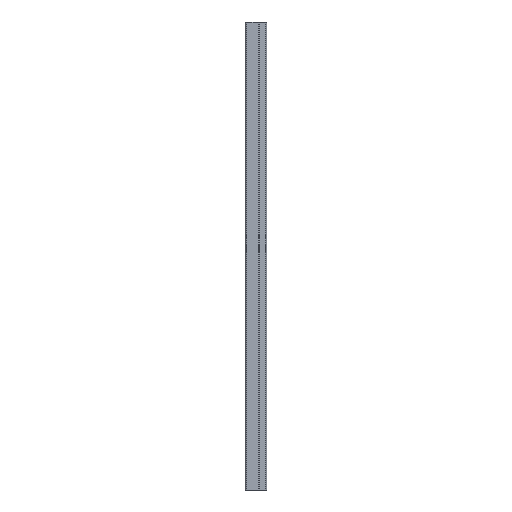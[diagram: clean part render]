
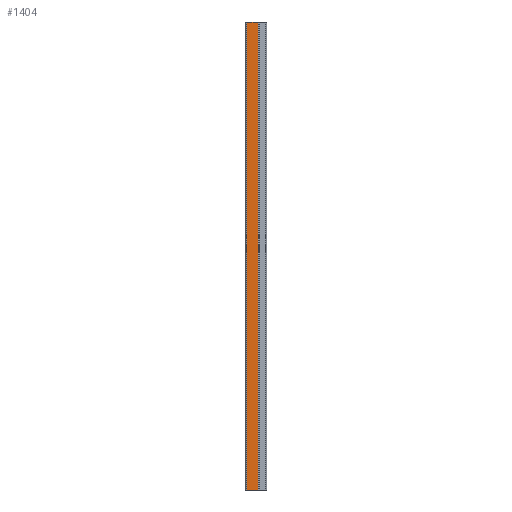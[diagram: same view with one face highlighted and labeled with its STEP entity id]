
A CAD part, front view. The second image highlights one B-rep face of the part: STEP entity #1404.
In plain terms, the highlighted planar face has unit normal (0, -1, 0).
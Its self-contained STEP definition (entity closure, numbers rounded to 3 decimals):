
#8 = LINE ( 'NONE', #576, #1108 ) ;
#38 = VERTEX_POINT ( 'NONE', #433 ) ;
#40 = VECTOR ( 'NONE', #502, 1000. ) ;
#103 = CARTESIAN_POINT ( 'NONE',  ( 12., -15., -500. ) ) ;
#124 = ORIENTED_EDGE ( 'NONE', *, *, #1041, .F. ) ;
#267 = VERTEX_POINT ( 'NONE', #103 ) ;
#429 = VERTEX_POINT ( 'NONE', #738 ) ;
#433 = CARTESIAN_POINT ( 'NONE',  ( -12., -15., -500. ) ) ;
#441 = DIRECTION ( 'NONE',  ( 0., 0., 1. ) ) ;
#452 = EDGE_CURVE ( 'NONE', #38, #267, #8, .T. ) ;
#455 = CARTESIAN_POINT ( 'NONE',  ( 12., -15., 500. ) ) ;
#462 = DIRECTION ( 'NONE',  ( 0., 0., -1. ) ) ;
#502 = DIRECTION ( 'NONE',  ( 1., 0., 0. ) ) ;
#520 = LINE ( 'NONE', #1257, #40 ) ;
#576 = CARTESIAN_POINT ( 'NONE',  ( -12., -15., -500. ) ) ;
#598 = VECTOR ( 'NONE', #441, 1000. ) ;
#635 = FACE_OUTER_BOUND ( 'NONE', #889, .T. ) ;
#646 = VECTOR ( 'NONE', #1801, 1000. ) ;
#682 = AXIS2_PLACEMENT_3D ( 'NONE', #1511, #1656, #462 ) ;
#738 = CARTESIAN_POINT ( 'NONE',  ( -12., -15., 500. ) ) ;
#781 = LINE ( 'NONE', #1512, #646 ) ;
#860 = VERTEX_POINT ( 'NONE', #455 ) ;
#889 = EDGE_LOOP ( 'NONE', ( #1726, #124, #1128, #1451 ) ) ;
#977 = LINE ( 'NONE', #1574, #598 ) ;
#1041 = EDGE_CURVE ( 'NONE', #38, #429, #781, .T. ) ;
#1108 = VECTOR ( 'NONE', #1489, 1000. ) ;
#1128 = ORIENTED_EDGE ( 'NONE', *, *, #452, .T. ) ;
#1257 = CARTESIAN_POINT ( 'NONE',  ( -12., -15., 500. ) ) ;
#1404 = ADVANCED_FACE ( 'NONE', ( #635 ), #1827, .T. ) ;
#1451 = ORIENTED_EDGE ( 'NONE', *, *, #1846, .T. ) ;
#1489 = DIRECTION ( 'NONE',  ( 1., 0., 0. ) ) ;
#1511 = CARTESIAN_POINT ( 'NONE',  ( -12., -15., -500. ) ) ;
#1512 = CARTESIAN_POINT ( 'NONE',  ( -12., -15., -500. ) ) ;
#1574 = CARTESIAN_POINT ( 'NONE',  ( 12., -15., -500. ) ) ;
#1656 = DIRECTION ( 'NONE',  ( 0., -1., 0. ) ) ;
#1726 = ORIENTED_EDGE ( 'NONE', *, *, #1800, .F. ) ;
#1800 = EDGE_CURVE ( 'NONE', #429, #860, #520, .T. ) ;
#1801 = DIRECTION ( 'NONE',  ( 0., 0., 1. ) ) ;
#1827 = PLANE ( 'NONE',  #682 ) ;
#1846 = EDGE_CURVE ( 'NONE', #267, #860, #977, .T. ) ;
